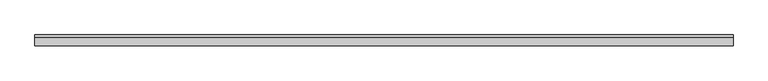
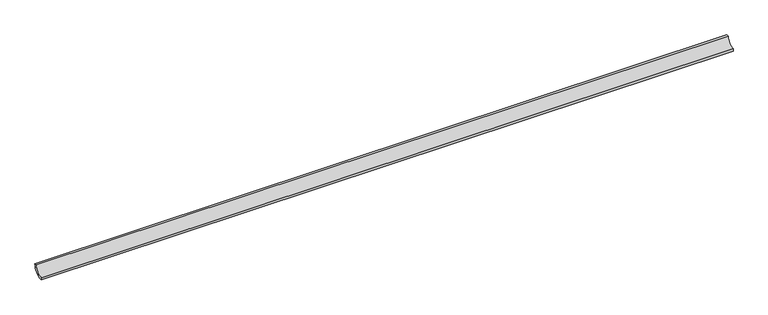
"""IFC4 building model written with IfcOpenShell, lengths in millimetres: proxy geometry, EXAGRES - Piscina Mediacaña : Publica_Azul_24.5x4cm."""

import ifcopenshell
import ifcopenshell.guid

model = None  # the IFC model being written
_history = None  # IfcOwnerHistory: only IFC2X3 demands one
_inside = {}  # id of a spatial element -> (the spatial element, [elements in it])
_under = {}  # id of a project, library or spatial element -> (it, [spatial elements below it])
_declared = {}  # id of a project -> (the project, [libraries it declares])
_typed = {}  # id of a type object -> (the type object, [elements of that type])
_made_of = {}  # id of a material, layer set ... -> (it, [elements and type objects made of it])


def new_model(schema):
    """Start an empty IFC model of exactly this schema.

    Asked for "IFC4X3", IfcOpenShell would pick the latest addendum, in which some entities
    have other attributes; the version numbers below select the first issue.
    IFC2X3 requires an IfcOwnerHistory on every rooted entity: one is made here for all.
    """
    global model, _history
    if schema == "IFC4X3":
        model = ifcopenshell.file(schema_version=(4, 3, 0, 0))
    else:
        model = ifcopenshell.file(schema=schema)
    _inside.clear()
    _under.clear()
    _declared.clear()
    _typed.clear()
    _made_of.clear()
    _history = None
    if model.schema == "IFC2X3":
        org = make("IfcOrganization", Name="unknown")
        user = make(
            "IfcPersonAndOrganization",
            ThePerson=make("IfcPerson", FamilyName="unknown"),
            TheOrganization=org,
        )
        app = make(
            "IfcApplication",
            ApplicationDeveloper=org,
            Version="unknown",
            ApplicationFullName="unknown",
            ApplicationIdentifier="unknown",
        )
        _history = make(
            "IfcOwnerHistory",
            OwningUser=user,
            OwningApplication=app,
            ChangeAction="ADDED",
            CreationDate=0,
        )
    return model


def make(cls, **values):
    """One entity of the class cls with the attributes given. An attribute that is None is left unset."""
    return model.create_entity(
        cls, **{name: value for name, value in values.items() if value is not None}
    )


def rooted(cls, **values):
    """An entity with a GlobalId (a new one), such as an element, a storey or a relation."""
    return make(cls, GlobalId=ifcopenshell.guid.new(), OwnerHistory=_history, **values)


def si_unit(unit_type, name, prefix=None):
    """IfcSIUnit, for example si_unit("LENGTHUNIT", "METRE", prefix="MILLI")."""
    return make("IfcSIUnit", UnitType=unit_type, Prefix=prefix, Name=name)


def assignment(units):
    """IfcUnitAssignment: the units of a project."""
    return None if units is None else make("IfcUnitAssignment", Units=units)


def point(xyz):
    """IfcCartesianPoint."""
    return None if xyz is None else make("IfcCartesianPoint", Coordinates=xyz)


def direction(xyz):
    """IfcDirection."""
    return None if xyz is None else make("IfcDirection", DirectionRatios=xyz)


def frame(location, z_axis=None, x_axis=None):
    """IfcAxis2Placement3D, a coordinate frame: its origin and axes. An axis left out is left unset."""
    return make(
        "IfcAxis2Placement3D",
        Location=point(location),
        Axis=direction(z_axis),
        RefDirection=direction(x_axis),
    )


def frame_2d(location, x_axis=None):
    """IfcAxis2Placement2D, a coordinate frame in the plane: its origin and x axis."""
    return make(
        "IfcAxis2Placement2D", Location=point(location), RefDirection=direction(x_axis)
    )


def origin():
    """The frame at (0, 0, 0) with its axes left unset."""
    return frame((0.0, 0.0, 0.0))


def place(relative_to, where):
    """IfcLocalPlacement: puts the frame where relative to a parent placement (None: the world)."""
    return make(
        "IfcLocalPlacement", PlacementRelTo=relative_to, RelativePlacement=where
    )


def context(
    kind, dimensions, precision=None, world=None, true_north=None, identifier=None
):
    """IfcGeometricRepresentationContext, for example the 3D "Model" context."""
    return make(
        "IfcGeometricRepresentationContext",
        ContextIdentifier=identifier,
        ContextType=kind,
        CoordinateSpaceDimension=dimensions,
        Precision=precision,
        WorldCoordinateSystem=world,
        TrueNorth=true_north,
    )


def project(units=None, contexts=None):
    """IfcProject with its units and contexts."""
    return rooted(
        "IfcProject",
        Name="project",
        RepresentationContexts=contexts,
        UnitsInContext=assignment(units),
    )


def spatial(cls, under=None, at=None, **own):
    """A site, building, storey or space (cls), placed at a placement, below another one or the project."""
    s = rooted(cls, ObjectPlacement=at, **own)
    if under is not None:
        _under.setdefault(under.id(), (under, []))[1].append(s)
    return s


def polyline(points):
    """IfcPolyline through the points."""
    return make("IfcPolyline", Points=[point(p) for p in points])


def circle_curve(where, radius):
    """IfcCircle in the frame where."""
    return make("IfcCircle", Position=where, Radius=radius)


def trimmed(basis, trim1, trim2, sense, master):
    """IfcTrimmedCurve: the piece of a basis curve between two trims."""
    return make(
        "IfcTrimmedCurve",
        BasisCurve=basis,
        Trim1=trim1,
        Trim2=trim2,
        SenseAgreement=sense,
        MasterRepresentation=master,
    )


def segment(curve, same_sense, transition):
    """IfcCompositeCurveSegment."""
    return make(
        "IfcCompositeCurveSegment",
        Transition=transition,
        SameSense=same_sense,
        ParentCurve=curve,
    )


def composite_curve(segments, self_intersect=None):
    """IfcCompositeCurve: segments joined end to end."""
    return make("IfcCompositeCurve", Segments=segments, SelfIntersect=self_intersect)


def outline(outer, holes=None, kind="AREA"):
    """IfcArbitraryClosedProfileDef: a profile drawn as a closed curve; with holes, ...WithVoids."""
    if holes is None:
        return make("IfcArbitraryClosedProfileDef", ProfileType=kind, OuterCurve=outer)
    return make(
        "IfcArbitraryProfileDefWithVoids",
        ProfileType=kind,
        OuterCurve=outer,
        InnerCurves=holes,
    )


def extrude(swept, where, along, depth):
    """IfcExtrudedAreaSolid: the profile swept, set in the frame where, extruded along a direction by depth."""
    return make(
        "IfcExtrudedAreaSolid",
        SweptArea=swept,
        Position=where,
        ExtrudedDirection=direction(along),
        Depth=depth,
    )


def shape(context_of_items, identifier, shape_type, items):
    """IfcShapeRepresentation: the items that make up one representation, for example the "Body"."""
    return make(
        "IfcShapeRepresentation",
        ContextOfItems=context_of_items,
        RepresentationIdentifier=identifier,
        RepresentationType=shape_type,
        Items=items,
    )


def source(mapping_origin, context_of_items, identifier, shape_type, items):
    """IfcRepresentationMap: a shape defined once, which mapped items show again and again."""
    return make(
        "IfcRepresentationMap",
        MappingOrigin=mapping_origin,
        MappedRepresentation=shape(context_of_items, identifier, shape_type, items),
    )


def transform(
    local_origin,
    x_axis=None,
    y_axis=None,
    z_axis=None,
    scale=None,
    scale2=None,
    scale3=None,
    uniform=True,
):
    """IfcCartesianTransformationOperator3D, or its non-uniform kind. x_axis, y_axis, z_axis: its Axis1, 2, 3."""
    if uniform:
        return make(
            "IfcCartesianTransformationOperator3D",
            Axis1=direction(x_axis),
            Axis2=direction(y_axis),
            LocalOrigin=point(local_origin),
            Scale=scale,
            Axis3=direction(z_axis),
        )
    return make(
        "IfcCartesianTransformationOperator3DnonUniform",
        Axis1=direction(x_axis),
        Axis2=direction(y_axis),
        LocalOrigin=point(local_origin),
        Scale=scale,
        Axis3=direction(z_axis),
        Scale2=scale2,
        Scale3=scale3,
    )


def mapped(mapping_source, mapping_target):
    """IfcMappedItem: shows the shape of a source again, moved by a transform."""
    return make(
        "IfcMappedItem", MappingSource=mapping_source, MappingTarget=mapping_target
    )


def made_of(thing, what):
    """Note that an element or type object is made of a material, layer set ...; save() writes the relation."""
    if what is not None:
        _made_of.setdefault(what.id(), (what, []))[1].append(thing)
    return thing


def element(
    cls,
    number,
    at=None,
    inside=None,
    cuts=None,
    type_object=None,
    material=None,
    context=None,
    identifier="Body",
    shape_type=None,
    held_by="IfcProductDefinitionShape",
    body=None,
    shapes=None,
    **own,
):
    """One element of the class cls, such as IfcWall. Its Tag is "e" and its number.

    at: its placement. inside: the storey or other place that contains it. cuts: it is an
    opening in that element (IfcRelVoidsElement). A single representation is given by context,
    identifier, shape_type and body (its items); several are given by shapes. held_by: the class
    of the entity that holds the representations. save() writes the other relations.
    """
    e = rooted(cls, Tag="e%d" % number, ObjectPlacement=at, **own)
    if body is not None:
        shapes = [shape(context, identifier, shape_type, body)]
    if shapes is not None:
        e.Representation = make(held_by, Representations=shapes)
    if inside is not None:
        _inside.setdefault(inside.id(), (inside, []))[1].append(e)
    if cuts is not None:
        rooted(
            "IfcRelVoidsElement", RelatingBuildingElement=cuts, RelatedOpeningElement=e
        )
    if type_object is not None:
        _typed.setdefault(type_object.id(), (type_object, []))[1].append(e)
    return made_of(e, material)


def aggregate(whole, parts):
    """IfcRelAggregates: a whole, such as a stair, and the parts it consists of."""
    return rooted("IfcRelAggregates", RelatingObject=whole, RelatedObjects=parts)


def save(model, path):
    """Write the relations noted so far, then the file.

    IfcRelAggregates (storeys below a building ...), IfcRelContainedInSpatialStructure (elements
    in a storey), IfcRelDefinesByType, IfcRelAssociatesMaterial and IfcRelDeclares: one each for
    every whole, place, type object, material and project.
    """
    for whole, parts in _under.values():
        aggregate(whole, parts)
    for where, things in _inside.values():
        rooted(
            "IfcRelContainedInSpatialStructure",
            RelatedElements=things,
            RelatingStructure=where,
        )
    for kind, things in _typed.values():
        rooted("IfcRelDefinesByType", RelatedObjects=things, RelatingType=kind)
    for what, things in _made_of.values():
        rooted("IfcRelAssociatesMaterial", RelatedObjects=things, RelatingMaterial=what)
    for by, libraries in _declared.values():
        rooted("IfcRelDeclares", RelatingContext=by, RelatedDefinitions=libraries)
    model.write(path)


def generic_models_227ff7f2(model_context):
    return source(origin(), model_context, "Body", "SweptSolid", [
        extrude(outline(composite_curve([segment(polyline([(0.0, 23.9), (6.4, 23.9)]), True, "CONTINUOUS"), segment(trimmed(circle_curve(frame_2d((-23.9, 23.9)), 30.3), [point((6.4, 23.9))], [point((-23.9, -6.4))], False, "CARTESIAN"), True, "CONTINUOUS"), segment(polyline([(-23.9, -6.4), (-23.9, 0.0)]), True, "CONTINUOUS"), segment(trimmed(circle_curve(frame_2d((-23.9, 23.9)), 23.9), [point((-23.9, 0.0))], [point((0.0, 23.9))], True, "CARTESIAN"), True, "CONTINUOUS")], self_intersect=False)), frame((0.0, 0.0, 0.0), z_axis=(1.0, 0.0, 0.0), x_axis=(0.0, 1.0, 0.0)), (0.0, 0.0, 1.0), 1980.0756873),
    ])


if __name__ == "__main__":
    model = new_model("IFC4")
    model_context = context("Model", 3, world=origin())
    ifc_project = project(units=[si_unit("LENGTHUNIT", "METRE", prefix="MILLI")], contexts=[model_context])
    site = spatial("IfcSite", under=ifc_project)
    building = spatial("IfcBuilding", under=site)
    placement = place(None, origin())
    generic_models_shape = generic_models_227ff7f2(model_context)
    element("IfcBuildingElementProxy", 1, Name="EXAGRES - Piscina Mediacaña : Publica_Azul_24.5x4cm", ObjectType="EXAGRES - Piscina Mediacaña : Publica_Azul_24.5x4cm", at=placement, inside=building, context=model_context, shape_type="MappedRepresentation", body=[
        mapped(generic_models_shape, transform((0.0, 0.0, 0.0), x_axis=(1.0, 0.0, 0.0), y_axis=(0.0, 1.0, 0.0), z_axis=(0.0, 0.0, 1.0))),
    ])
    save(model, "model.ifc")
